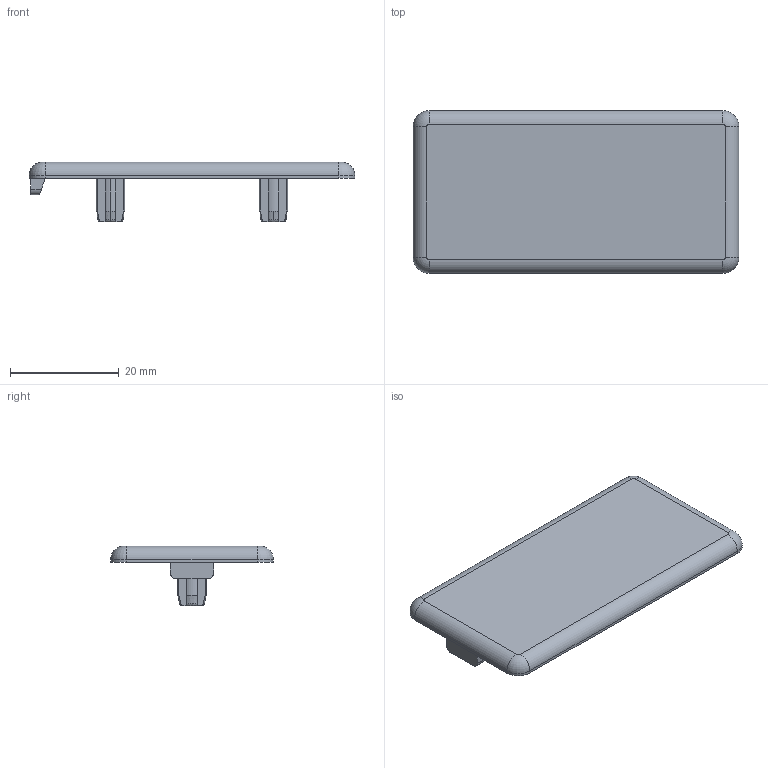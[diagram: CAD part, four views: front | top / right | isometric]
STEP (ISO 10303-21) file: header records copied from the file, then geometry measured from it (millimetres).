
FILE_DESCRIPTION (( 'STEP AP203' ), '1' );
FILE_NAME ('0106AK6030.STEP', '2024-03-07T08:54:23', ( 'Windows-Benutzer' ), ( '' ), 'SwSTEP 2.0', 'SolidWorks 2023', '' );
FILE_SCHEMA (( 'CONFIG_CONTROL_DESIGN' ));
Length unit declared in the file: millimetre
Products named in the file (1): 0106AK6030
Bounding box: 60 x 30 x 11 mm (x, y, z)
Volume: 4194.4 mm3; surface area: 4467.4 mm2
Topology: 1 solids, 1 shells, 86 faces, 231 edges, 150 vertices
Faces by surface type: plane 38, cylinder 24, bspline 10, cone 10, torus 4
Entity records: 2950 total; most frequent: CARTESIAN_POINT 798, ORIENTED_EDGE 462, DIRECTION 405, EDGE_CURVE 231, VERTEX_POINT 150, AXIS2_PLACEMENT_3D 141, VECTOR 123, LINE 123
